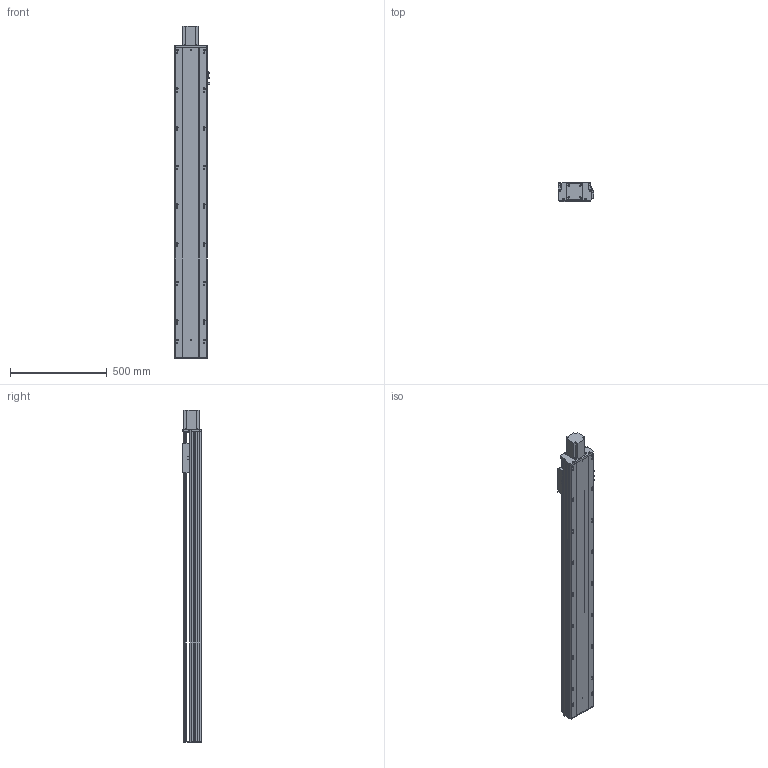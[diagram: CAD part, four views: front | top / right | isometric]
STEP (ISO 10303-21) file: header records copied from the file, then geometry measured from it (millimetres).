
FILE_DESCRIPTION (( 'STEP AP203' ), '1' );
FILE_NAME ('Y170-D10-S1350-BD-P750W.STEP', '2020-01-22T07:13:58', ( '微软用户' ), ( '微软中国' ), 'SwSTEP 2.0', 'SolidWorks 2017', '' );
FILE_SCHEMA (( 'CONFIG_CONTROL_DESIGN' ));
Length unit declared in the file: millimetre
Products named in the file (10): 170--掛极-BD; Y170-萇儂楊擘啣--; 135-盓傅釱-FK15; 侂狟750W; Y170耜裔--準---; Y170-陔遴奻裔-BD; Y170--雄赽釱-梓--; YD-Y100-135-新外置传感挡片(通用）; Y170-D10-S1350-BD-P750W; Y100-135俋离換覜ん
Assembly tree (11 placements, depth 2):
  Y170-D10-S1350-BD-P750W
    YD-Y100-135-新外置传感挡片(通用）
    Y100-135俋离換覜ん  x3
    170--掛极-BD
    Y170-萇儂楊擘啣--
    135-盓傅釱-FK15
    侂狟750W
    Y170耜裔--準---
    Y170-陔遴奻裔-BD
    Y170--雄赽釱-梓--
Bounding box: 183.5 x 97 x 1718.5 mm (x, y, z)
Volume: 7150584.7 mm3; surface area: 2462203 mm2
Topology: 11 solids, 11 shells, 852 faces, 2451 edges, 1624 vertices
Faces by surface type: cylinder 462, plane 388, torus 2
Entity records: 28111 total; most frequent: CARTESIAN_POINT 5147, DIRECTION 4665, ORIENTED_EDGE 4566, EDGE_CURVE 2283, AXIS2_PLACEMENT_3D 1686, VERTEX_POINT 1512, LINE 1293, VECTOR 1293
